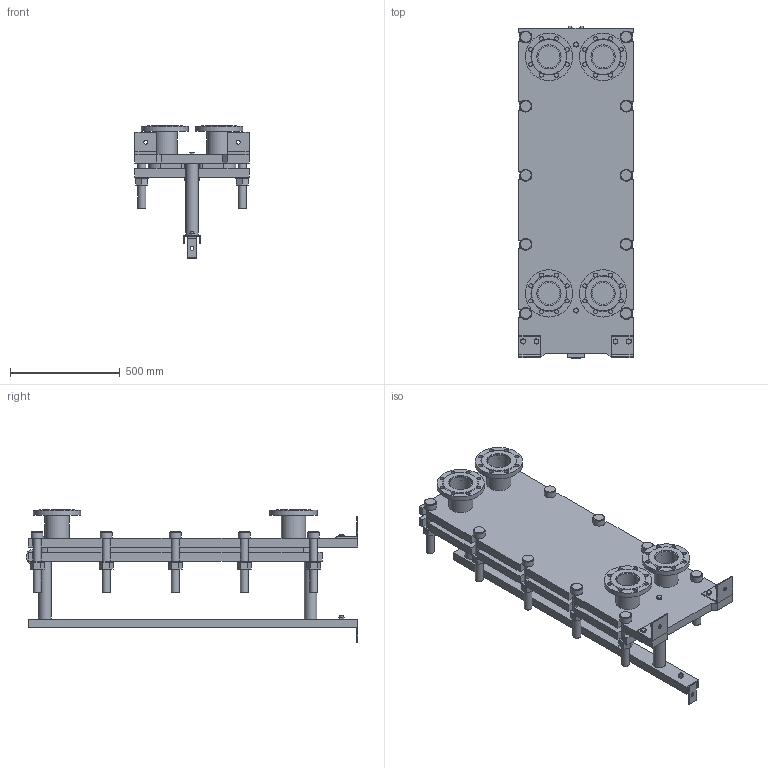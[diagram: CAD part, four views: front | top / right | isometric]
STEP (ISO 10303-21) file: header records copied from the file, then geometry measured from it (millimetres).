
FILE_DESCRIPTION(/* description */ (''),/* implementation_level */ '2;1');
FILE_NAME(/* name */ 'C:\Users\zhuro\Desktop\ENCO\TO\ЭН-04\ЭН-0,5-04-7-1.stp',/* time_stamp */ '2022-06-06T10:45:03+03:00',/* author */ ('zhuro'),/* organization */ (''),/* preprocessor_version */ 'ST-DEVELOPER v18.1',/* originating_system */ 'Autodesk Inventor 2022',/* authorisation */ '');
FILE_SCHEMA (('AUTOMOTIVE_DESIGN { 1 0 10303 214 3 1 1 }'));
Length unit declared in the file: millimetre
Products named in the file (1): ЭН-0,5-04-7-1
Bounding box: 520 x 1510 x 603.5 mm (x, y, z)
Volume: 78268619.7 mm3; surface area: 6310183.1 mm2
Topology: 45 solids, 45 shells, 668 faces, 1611 edges, 1048 vertices
Faces by surface type: plane 457, cylinder 166, cone 39, torus 6
Full cylindrical faces by diameter (mm): 8 x4, 10 x2, 16 x8, 18 x35, 36 x25, 40 x2, 42 x1, 45 x4, 54 x10, 57 x2, 60 x10, 68 x2, 100 x4, 110 x8, 215 x4
Entity records: 23607 total; most frequent: CARTESIAN_POINT 7348, DIRECTION 3371, ORIENTED_EDGE 3142, EDGE_CURVE 1571, AXIS2_PLACEMENT_3D 1199, VERTEX_POINT 1044, LINE 973, VECTOR 973
